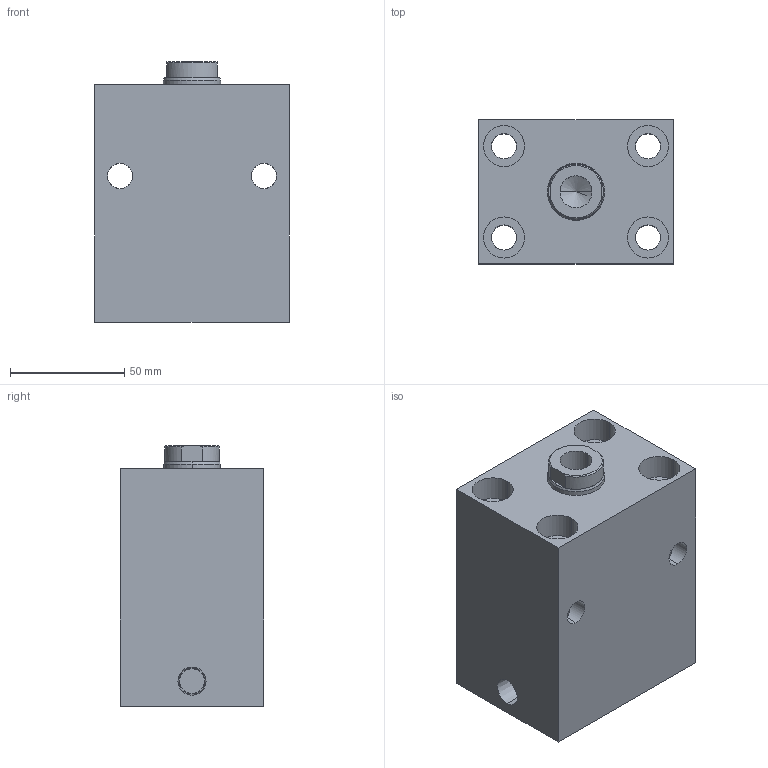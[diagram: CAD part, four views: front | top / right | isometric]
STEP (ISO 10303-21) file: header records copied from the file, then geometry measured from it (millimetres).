
FILE_DESCRIPTION (( 'STEP AP203' ), '1' );
FILE_NAME ('HBC-40S-20N装配体.STEP', '2019-11-29T08:58:34', ( '微软用户' ), ( '微软中国' ), 'SwSTEP 2.0', 'SolidWorks 2012', '' );
FILE_SCHEMA (( 'CONFIG_CONTROL_DESIGN' ));
Length unit declared in the file: millimetre
Products named in the file (3): HBC-40S-20N掛极; HBC-40S-20N活塞杆; HBC-40S-20N蚾饜极
Assembly tree (2 placements, depth 2):
  HBC-40S-20N蚾饜极
    HBC-40S-20N掛极
    HBC-40S-20N活塞杆
Bounding box: 85 x 63 x 114 mm (x, y, z)
Volume: 500817.5 mm3; surface area: 65395.4 mm2
Topology: 2 solids, 2 shells, 72 faces, 176 edges, 107 vertices
Faces by surface type: cylinder 46, plane 18, cone 8
Entity records: 2439 total; most frequent: CARTESIAN_POINT 466, DIRECTION 360, ORIENTED_EDGE 348, EDGE_CURVE 174, AXIS2_PLACEMENT_3D 145, VERTEX_POINT 107, EDGE_LOOP 93, ADVANCED_FACE 72
